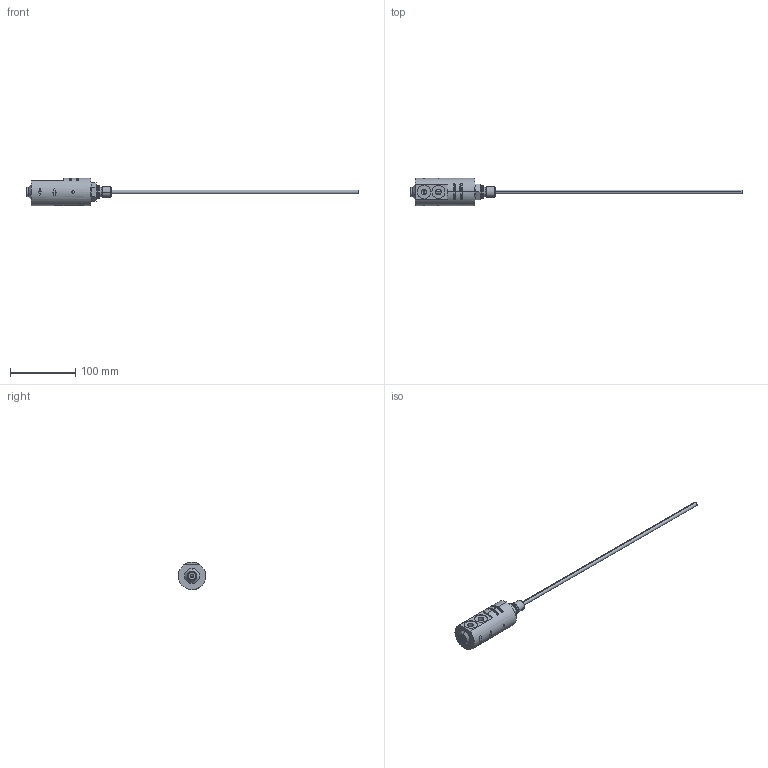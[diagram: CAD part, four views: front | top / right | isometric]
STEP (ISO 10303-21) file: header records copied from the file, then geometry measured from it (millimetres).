
FILE_DESCRIPTION((''),'2;1');
FILE_NAME('129629_ASM','2022-12-22T15:25:22',('SYSTEM'),(''),'CREO PARAMETRIC BY PTC INC, 2021284','CREO PARAMETRIC BY PTC INC, 2021284','');
FILE_SCHEMA(('AUTOMOTIVE_DESIGN { 1 0 10303 214 1 1 1 1 }'));
Products named in the file (2): 101406; 129629_ASM
Assembly tree (1 placements, depth 2):
  129629_ASM
    101406
Bounding box: 507.7 x 42 x 42 mm (x, y, z)
Volume: 112348.1 mm3; surface area: 57640.4 mm2
Topology: 6 solids, 15 shells, 1429 faces, 3673 edges, 2347 vertices
Faces by surface type: bspline 509, plane 376, cylinder 257, cone 131, torus 120, revolution 20, sphere 16
Entity records: 110593 total; most frequent: CARTESIAN_POINT 59866, ORIENTED_EDGE 7250, DIRECTION 5399, PRESENTATION_STYLE_ASSIGNMENT 4771, STYLED_ITEM 3651, CURVE_STYLE 3645, EDGE_CURVE 3625, VERTEX_POINT 2347
